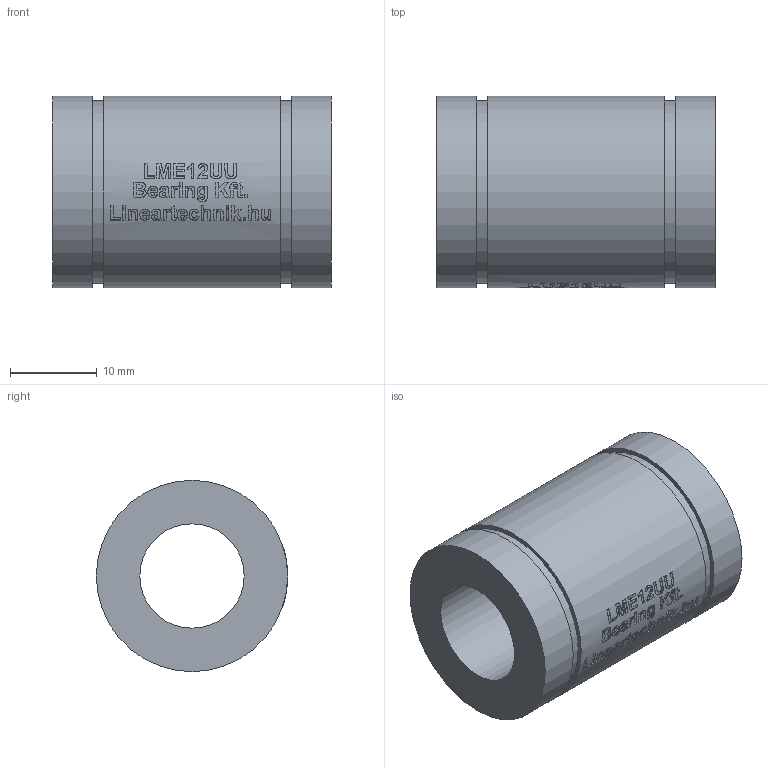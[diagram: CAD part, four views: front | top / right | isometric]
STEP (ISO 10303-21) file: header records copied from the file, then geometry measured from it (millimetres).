
FILE_DESCRIPTION(/* description */ (''),/* implementation_level */ '2;1');
FILE_NAME(/* name */ 'LME12UU',/* time_stamp */ '2019-05-17T10:33:02+02:00',/* author */ ('VĂ©gh MĂˇtĂ©'),/* organization */ ('Bearing Kft'),/* preprocessor_version */ 'ST-DEVELOPER v16.7',/* originating_system */ 'DEX',/* authorisation */ $);
FILE_SCHEMA (('AUTOMOTIVE_DESIGN {1 0 10303 214 3 1 1}'));
Length unit declared in the file: millimetre
Products named in the file (1): LME12UU
Bounding box: 32 x 22 x 22 mm (x, y, z)
Volume: 8454.4 mm3; surface area: 4100.9 mm2
Topology: 1 solids, 1 shells, 315 faces, 794 edges, 530 vertices
Faces by surface type: plane 171, bspline 93, cylinder 51
Full cylindrical faces by diameter (mm): 12 x1, 21 x2, 22 x3
Entity records: 15677 total; most frequent: CARTESIAN_POINT 8584, ORIENTED_EDGE 1570, DIRECTION 1197, EDGE_CURVE 785, VERTEX_POINT 528, LINE 439, VECTOR 439, AXIS2_PLACEMENT_3D 379
